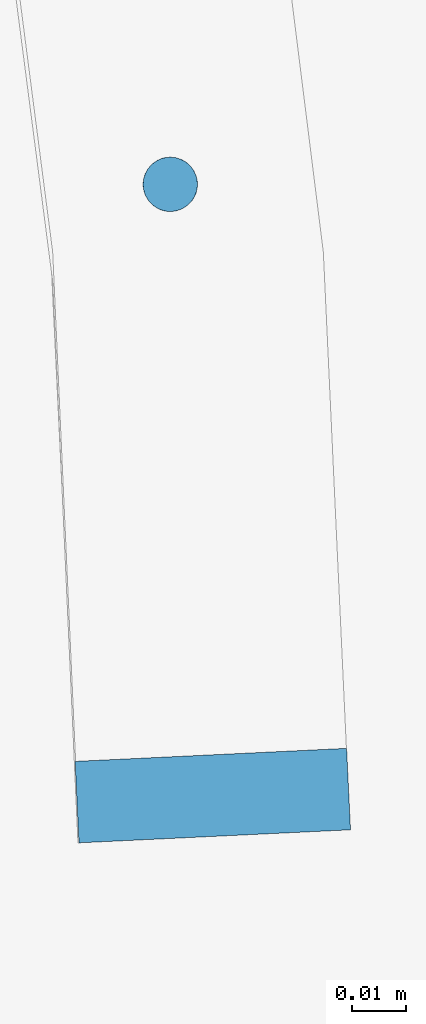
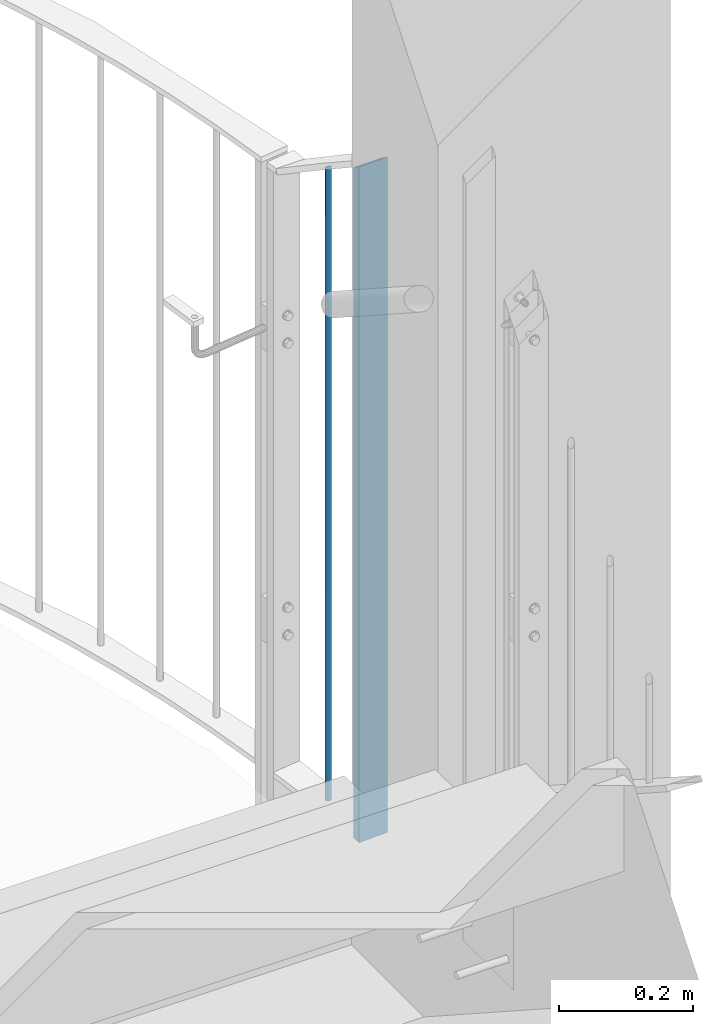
# One storey, part 87 of 296: 2 columns.
"""IFC2X3 building model written with IfcOpenShell, lengths in millimetres."""

from ifc_helpers import new_model, entity, si_unit, converted_unit, frame, origin, origin_with_axes, origin_2d, place, context, project, spatial, rectangle, circle, extrude, clip, halfspace, material, element, save


model = new_model("IFC2X3")

# Units and contexts
model_context = context("Model", 3, precision=1e-09, world=origin_with_axes())
ifc_project = project(units=[si_unit("LENGTHUNIT", "METRE", prefix="MILLI"), si_unit("AREAUNIT", "SQUARE_METRE"), si_unit("VOLUMEUNIT", "CUBIC_METRE"), converted_unit("PLANEANGLEUNIT", "DEGREE", entity("IfcPlaneAngleMeasure", 0.01745329), si_unit("PLANEANGLEUNIT", "RADIAN"), dimensions=[0, 0, 0, 0, 0, 0, 0])], contexts=[model_context])

# Site, building, storey
site_placement = place(None, origin_with_axes())
site = spatial("IfcSite", under=ifc_project, at=site_placement, Name="TZD-S?d | Treppenhausgel?nder", CompositionType="ELEMENT")
building_placement = place(site_placement, origin_with_axes())
building = spatial("IfcBuilding", under=site, at=building_placement, Name="Struktur 1", CompositionType="ELEMENT")
storey_placement = place(building_placement, origin_with_axes())
storey = spatial("IfcBuildingStorey", under=building, at=storey_placement, Name="Default Storey", CompositionType="ELEMENT", Elevation=0.0)

# Columns
ifc_material = material(Name="S235JR")
column_1_placement = place(None, frame((5903.37643005, 163.389143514, 7350.0), z_axis=(0.0, 0.0, -1.0), x_axis=(0.0, 1.0, 0.0)))
element("IfcColumn", 1, at=column_1_placement, inside=storey, material=ifc_material, Name="-", ObjectType="-", context=model_context, shape_type="Clipping", body=[
    clip(extrude(circle(Radius=5.0, at=origin_2d()), origin(), (0.0, 0.0, -1.0), 1157.678740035), halfspace(frame((3762.861539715, -5903.37643005, 1287.809681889), z_axis=(-0.543608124, 0.0, 0.839339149), x_axis=(0.0, 1.0, 0.0)), True)),
])
column_2_placement = place(None, frame((5911.196839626, 50.945967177, 8603.176159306), z_axis=(0.0, 0.0, 1.0), x_axis=(0.047978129, -0.998848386, 0.0)))
element("IfcColumn", 2, at=column_2_placement, inside=storey, material=ifc_material, Name="-", ObjectType="-", context=model_context, shape_type="Clipping", body=[
    clip(extrude(rectangle(XDim=15.0, YDim=50.0, at=origin_2d()), origin(), (0.0, 0.0, -1.0), 1253.176159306), halfspace(frame((-4154.450024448, -5718.459557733, -2540.985841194), z_axis=(0.542982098, -0.0260813, -0.839339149), x_axis=(0.047978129, 0.998848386, 0.0)), True)),
])

save(model, "model.ifc")
